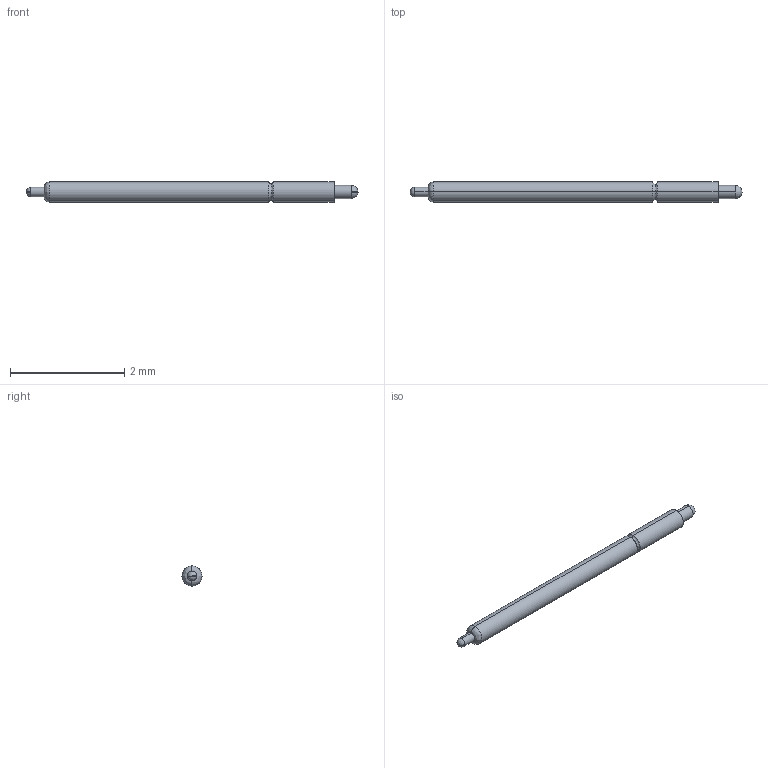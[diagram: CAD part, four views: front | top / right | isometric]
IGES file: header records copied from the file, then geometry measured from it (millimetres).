
Start section: SolidWorks IGES file using analytic representation for surfaces
Global section: file name: Z:\probe solid model mockups\Solidworks models\IGES Files\CSP5-20 IGES files\CSP5-20JJ Full.IGS; native system: SolidWorks 2006 by SolidWorks Corporation; preprocessor: SolidWorks 2006 by SolidWorks Corporation; author: tsakatani; date: 080108.143945; units: inch
Bounding box: 5.82 x 0.35 x 0.35 mm (x, y, z)
Surface area: 6.2 mm2 (no closed solid volume)
Topology: 0 solids, 0 shells, 19 faces, 112 edges, 108 vertices
Faces by surface type: revolution 12, bspline 7
